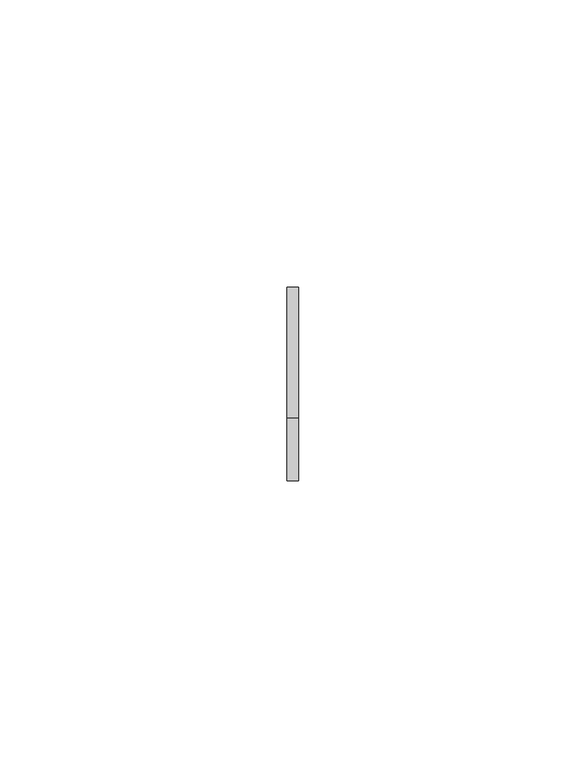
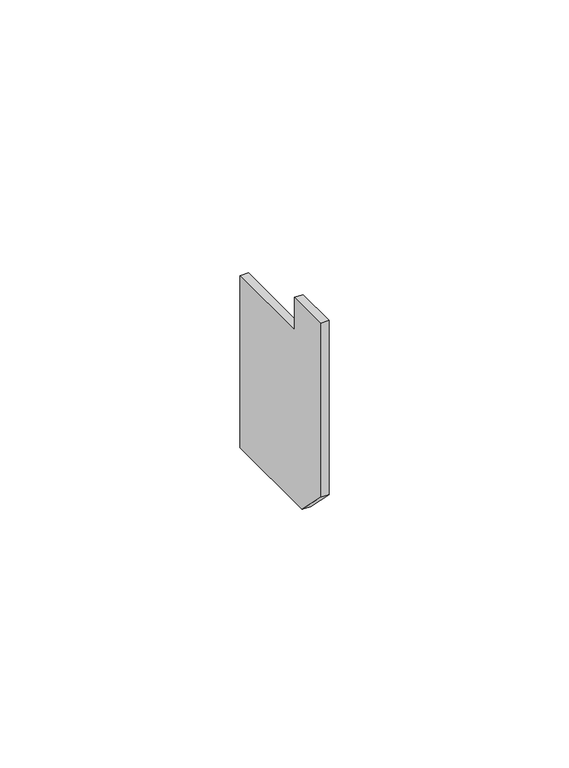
"""IFC4 building model written with IfcOpenShell, lengths in millimetres: proxy geometry, Odbojnik - OPK20R : Odbojnik - OPK20R."""

from ifc_helpers import new_model, si_unit, frame, origin, place, context, project, spatial, polyline, outline, extrude, source, transform, mapped, element, save


def generic_models_589676a0(model_context):
    return source(origin(), model_context, "Body", "SweptSolid", [
        extrude(outline(polyline([(-152.3541821, 40.0654523), (-141.5541821, 40.0654523), (-141.5541821, 31.7785354), (-118.7541828, 31.7785354), (-118.7541828, -11.9294385), (-144.6541844, -11.9294385), (-152.3541821, -4.2294408), (-152.3541821, 40.0654523)])), frame((-3.0, 0.0, 0.0), z_axis=(1.0, 0.0, 0.0), x_axis=(0.0, 1.0, 0.0)), (0.0, 0.0, 1.0), 2.0),
    ])


if __name__ == "__main__":
    model = new_model("IFC4")
    model_context = context("Model", 3, world=origin())
    ifc_project = project(units=[si_unit("LENGTHUNIT", "METRE", prefix="MILLI")], contexts=[model_context])
    site = spatial("IfcSite", under=ifc_project)
    building = spatial("IfcBuilding", under=site)
    placement = place(None, origin())
    generic_models_shape = generic_models_589676a0(model_context)
    element("IfcBuildingElementProxy", 1, Name="Odbojnik - OPK20R : Odbojnik - OPK20R", ObjectType="Odbojnik - OPK20R : Odbojnik - OPK20R", at=placement, inside=building, context=model_context, shape_type="MappedRepresentation", body=[
        mapped(generic_models_shape, transform((0.0, 0.0, 0.0), x_axis=(1.0, 0.0, 0.0), y_axis=(0.0, 1.0, 0.0), z_axis=(0.0, 0.0, 1.0))),
    ])
    save(model, "model.ifc")
